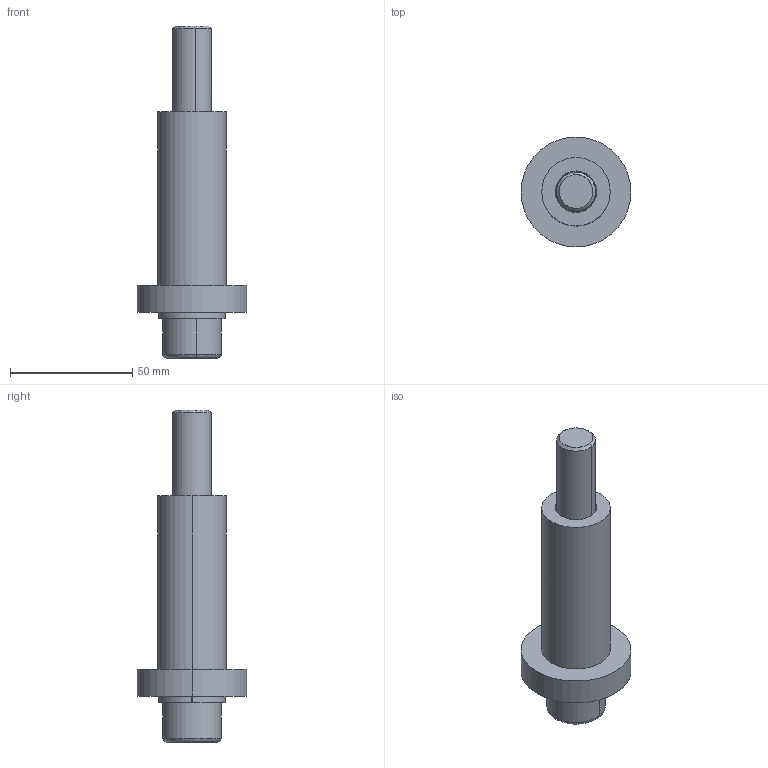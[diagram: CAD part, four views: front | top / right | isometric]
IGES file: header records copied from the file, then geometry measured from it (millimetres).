
Start section: START RECORD GO HERE.
Global section: file name: M312-08-16.igs; native system: DASSAULT SYSTEMES CATIA V5 R20 - www.3ds.com; preprocessor: CATIA Version 5 Release 20 ; author: Utente; organization: NB04-ASUS; date: 20201204.202703; units: millimetre
Bounding box: 45 x 45 x 136 mm (x, y, z)
Surface area: 23473.4 mm2 (no closed solid volume)
Topology: 0 solids, 0 shells, 50 faces, 226 edges, 224 vertices
Faces by surface type: revolution 28, plane 22
